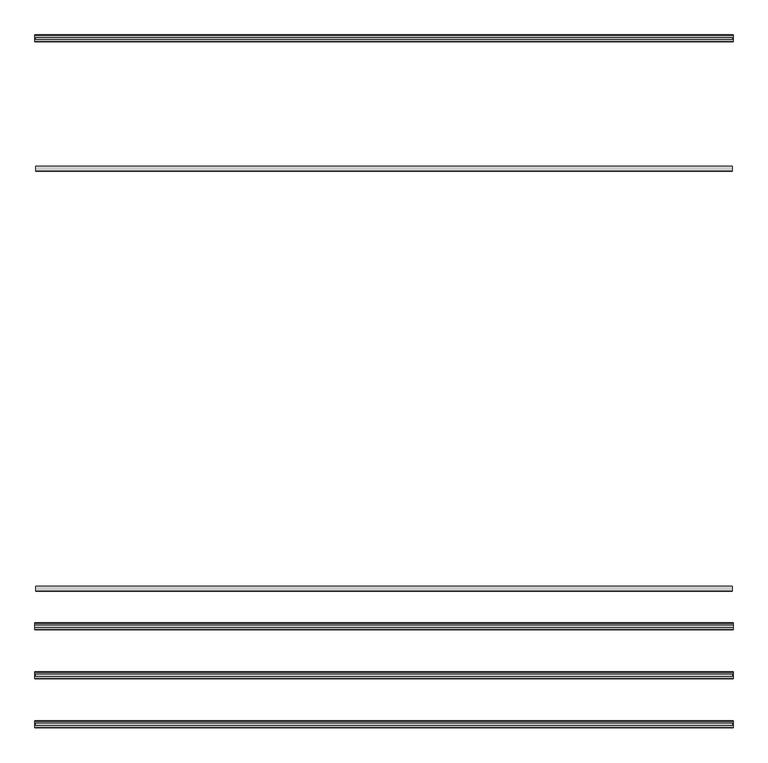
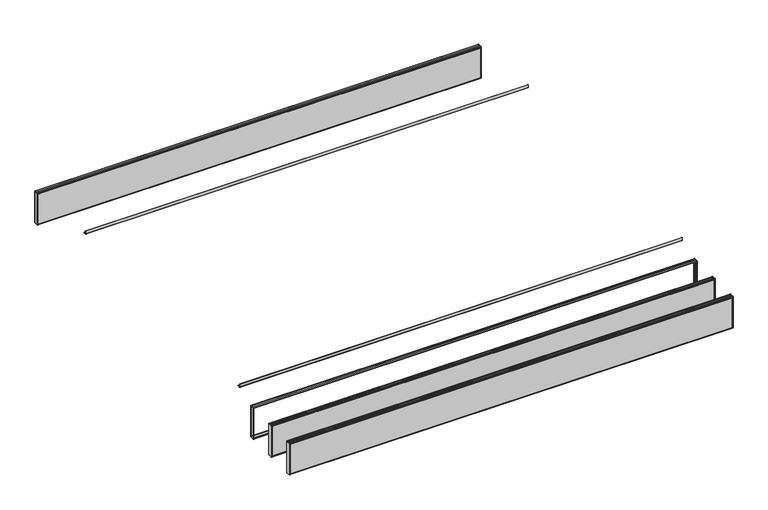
"""IFC4 building model written with IfcOpenShell, lengths in millimetres: proxy geometry, durlum_POLYLAM_KS : durlum_POLYLAM-KS/-S 40."""

import ifcopenshell
import ifcopenshell.guid

model = None  # the IFC model being written
_history = None  # IfcOwnerHistory: only IFC2X3 demands one
_inside = {}  # id of a spatial element -> (the spatial element, [elements in it])
_under = {}  # id of a project, library or spatial element -> (it, [spatial elements below it])
_declared = {}  # id of a project -> (the project, [libraries it declares])
_typed = {}  # id of a type object -> (the type object, [elements of that type])
_made_of = {}  # id of a material, layer set ... -> (it, [elements and type objects made of it])


def new_model(schema):
    """Start an empty IFC model of exactly this schema.

    Asked for "IFC4X3", IfcOpenShell would pick the latest addendum, in which some entities
    have other attributes; the version numbers below select the first issue.
    IFC2X3 requires an IfcOwnerHistory on every rooted entity: one is made here for all.
    """
    global model, _history
    if schema == "IFC4X3":
        model = ifcopenshell.file(schema_version=(4, 3, 0, 0))
    else:
        model = ifcopenshell.file(schema=schema)
    _inside.clear()
    _under.clear()
    _declared.clear()
    _typed.clear()
    _made_of.clear()
    _history = None
    if model.schema == "IFC2X3":
        org = make("IfcOrganization", Name="unknown")
        user = make(
            "IfcPersonAndOrganization",
            ThePerson=make("IfcPerson", FamilyName="unknown"),
            TheOrganization=org,
        )
        app = make(
            "IfcApplication",
            ApplicationDeveloper=org,
            Version="unknown",
            ApplicationFullName="unknown",
            ApplicationIdentifier="unknown",
        )
        _history = make(
            "IfcOwnerHistory",
            OwningUser=user,
            OwningApplication=app,
            ChangeAction="ADDED",
            CreationDate=0,
        )
    return model


def make(cls, **values):
    """One entity of the class cls with the attributes given. An attribute that is None is left unset."""
    return model.create_entity(
        cls, **{name: value for name, value in values.items() if value is not None}
    )


def rooted(cls, **values):
    """An entity with a GlobalId (a new one), such as an element, a storey or a relation."""
    return make(cls, GlobalId=ifcopenshell.guid.new(), OwnerHistory=_history, **values)


def si_unit(unit_type, name, prefix=None):
    """IfcSIUnit, for example si_unit("LENGTHUNIT", "METRE", prefix="MILLI")."""
    return make("IfcSIUnit", UnitType=unit_type, Prefix=prefix, Name=name)


def assignment(units):
    """IfcUnitAssignment: the units of a project."""
    return None if units is None else make("IfcUnitAssignment", Units=units)


def point(xyz):
    """IfcCartesianPoint."""
    return None if xyz is None else make("IfcCartesianPoint", Coordinates=xyz)


def direction(xyz):
    """IfcDirection."""
    return None if xyz is None else make("IfcDirection", DirectionRatios=xyz)


def frame(location, z_axis=None, x_axis=None):
    """IfcAxis2Placement3D, a coordinate frame: its origin and axes. An axis left out is left unset."""
    return make(
        "IfcAxis2Placement3D",
        Location=point(location),
        Axis=direction(z_axis),
        RefDirection=direction(x_axis),
    )


def frame_2d(location, x_axis=None):
    """IfcAxis2Placement2D, a coordinate frame in the plane: its origin and x axis."""
    return make(
        "IfcAxis2Placement2D", Location=point(location), RefDirection=direction(x_axis)
    )


def origin():
    """The frame at (0, 0, 0) with its axes left unset."""
    return frame((0.0, 0.0, 0.0))


def place(relative_to, where):
    """IfcLocalPlacement: puts the frame where relative to a parent placement (None: the world)."""
    return make(
        "IfcLocalPlacement", PlacementRelTo=relative_to, RelativePlacement=where
    )


def context(
    kind, dimensions, precision=None, world=None, true_north=None, identifier=None
):
    """IfcGeometricRepresentationContext, for example the 3D "Model" context."""
    return make(
        "IfcGeometricRepresentationContext",
        ContextIdentifier=identifier,
        ContextType=kind,
        CoordinateSpaceDimension=dimensions,
        Precision=precision,
        WorldCoordinateSystem=world,
        TrueNorth=true_north,
    )


def project(units=None, contexts=None):
    """IfcProject with its units and contexts."""
    return rooted(
        "IfcProject",
        Name="project",
        RepresentationContexts=contexts,
        UnitsInContext=assignment(units),
    )


def spatial(cls, under=None, at=None, **own):
    """A site, building, storey or space (cls), placed at a placement, below another one or the project."""
    s = rooted(cls, ObjectPlacement=at, **own)
    if under is not None:
        _under.setdefault(under.id(), (under, []))[1].append(s)
    return s


def polyline(points):
    """IfcPolyline through the points."""
    return make("IfcPolyline", Points=[point(p) for p in points])


def circle_curve(where, radius):
    """IfcCircle in the frame where."""
    return make("IfcCircle", Position=where, Radius=radius)


def trimmed(basis, trim1, trim2, sense, master):
    """IfcTrimmedCurve: the piece of a basis curve between two trims."""
    return make(
        "IfcTrimmedCurve",
        BasisCurve=basis,
        Trim1=trim1,
        Trim2=trim2,
        SenseAgreement=sense,
        MasterRepresentation=master,
    )


def segment(curve, same_sense, transition):
    """IfcCompositeCurveSegment."""
    return make(
        "IfcCompositeCurveSegment",
        Transition=transition,
        SameSense=same_sense,
        ParentCurve=curve,
    )


def composite_curve(segments, self_intersect=None):
    """IfcCompositeCurve: segments joined end to end."""
    return make("IfcCompositeCurve", Segments=segments, SelfIntersect=self_intersect)


def outline(outer, holes=None, kind="AREA"):
    """IfcArbitraryClosedProfileDef: a profile drawn as a closed curve; with holes, ...WithVoids."""
    if holes is None:
        return make("IfcArbitraryClosedProfileDef", ProfileType=kind, OuterCurve=outer)
    return make(
        "IfcArbitraryProfileDefWithVoids",
        ProfileType=kind,
        OuterCurve=outer,
        InnerCurves=holes,
    )


def extrude(swept, where, along, depth):
    """IfcExtrudedAreaSolid: the profile swept, set in the frame where, extruded along a direction by depth."""
    return make(
        "IfcExtrudedAreaSolid",
        SweptArea=swept,
        Position=where,
        ExtrudedDirection=direction(along),
        Depth=depth,
    )


def shape(context_of_items, identifier, shape_type, items):
    """IfcShapeRepresentation: the items that make up one representation, for example the "Body"."""
    return make(
        "IfcShapeRepresentation",
        ContextOfItems=context_of_items,
        RepresentationIdentifier=identifier,
        RepresentationType=shape_type,
        Items=items,
    )


def source(mapping_origin, context_of_items, identifier, shape_type, items):
    """IfcRepresentationMap: a shape defined once, which mapped items show again and again."""
    return make(
        "IfcRepresentationMap",
        MappingOrigin=mapping_origin,
        MappedRepresentation=shape(context_of_items, identifier, shape_type, items),
    )


def transform(
    local_origin,
    x_axis=None,
    y_axis=None,
    z_axis=None,
    scale=None,
    scale2=None,
    scale3=None,
    uniform=True,
):
    """IfcCartesianTransformationOperator3D, or its non-uniform kind. x_axis, y_axis, z_axis: its Axis1, 2, 3."""
    if uniform:
        return make(
            "IfcCartesianTransformationOperator3D",
            Axis1=direction(x_axis),
            Axis2=direction(y_axis),
            LocalOrigin=point(local_origin),
            Scale=scale,
            Axis3=direction(z_axis),
        )
    return make(
        "IfcCartesianTransformationOperator3DnonUniform",
        Axis1=direction(x_axis),
        Axis2=direction(y_axis),
        LocalOrigin=point(local_origin),
        Scale=scale,
        Axis3=direction(z_axis),
        Scale2=scale2,
        Scale3=scale3,
    )


def mapped(mapping_source, mapping_target):
    """IfcMappedItem: shows the shape of a source again, moved by a transform."""
    return make(
        "IfcMappedItem", MappingSource=mapping_source, MappingTarget=mapping_target
    )


def made_of(thing, what):
    """Note that an element or type object is made of a material, layer set ...; save() writes the relation."""
    if what is not None:
        _made_of.setdefault(what.id(), (what, []))[1].append(thing)
    return thing


def element(
    cls,
    number,
    at=None,
    inside=None,
    cuts=None,
    type_object=None,
    material=None,
    context=None,
    identifier="Body",
    shape_type=None,
    held_by="IfcProductDefinitionShape",
    body=None,
    shapes=None,
    **own,
):
    """One element of the class cls, such as IfcWall. Its Tag is "e" and its number.

    at: its placement. inside: the storey or other place that contains it. cuts: it is an
    opening in that element (IfcRelVoidsElement). A single representation is given by context,
    identifier, shape_type and body (its items); several are given by shapes. held_by: the class
    of the entity that holds the representations. save() writes the other relations.
    """
    e = rooted(cls, Tag="e%d" % number, ObjectPlacement=at, **own)
    if body is not None:
        shapes = [shape(context, identifier, shape_type, body)]
    if shapes is not None:
        e.Representation = make(held_by, Representations=shapes)
    if inside is not None:
        _inside.setdefault(inside.id(), (inside, []))[1].append(e)
    if cuts is not None:
        rooted(
            "IfcRelVoidsElement", RelatingBuildingElement=cuts, RelatedOpeningElement=e
        )
    if type_object is not None:
        _typed.setdefault(type_object.id(), (type_object, []))[1].append(e)
    return made_of(e, material)


def aggregate(whole, parts):
    """IfcRelAggregates: a whole, such as a stair, and the parts it consists of."""
    return rooted("IfcRelAggregates", RelatingObject=whole, RelatedObjects=parts)


def save(model, path):
    """Write the relations noted so far, then the file.

    IfcRelAggregates (storeys below a building ...), IfcRelContainedInSpatialStructure (elements
    in a storey), IfcRelDefinesByType, IfcRelAssociatesMaterial and IfcRelDeclares: one each for
    every whole, place, type object, material and project.
    """
    for whole, parts in _under.values():
        aggregate(whole, parts)
    for where, things in _inside.values():
        rooted(
            "IfcRelContainedInSpatialStructure",
            RelatedElements=things,
            RelatingStructure=where,
        )
    for kind, things in _typed.values():
        rooted("IfcRelDefinesByType", RelatedObjects=things, RelatingType=kind)
    for what, things in _made_of.values():
        rooted("IfcRelAssociatesMaterial", RelatedObjects=things, RelatingMaterial=what)
    for by, libraries in _declared.values():
        rooted("IfcRelDeclares", RelatingContext=by, RelatedDefinitions=libraries)
    model.write(path)


def plane_surface(at):
    """IfcPlane: the flat surface through the origin of the frame at, square to its z axis."""
    return make("IfcPlane", Position=at)


def cylinder_surface(at, radius):
    """IfcCylindricalSurface: all points at the distance radius from the z axis of the frame at."""
    return make("IfcCylindricalSurface", Position=at, Radius=radius)


def advanced_brep(points, edges, surfaces, faces):
    """IfcAdvancedBrep: a solid bounded by faces that lie on surfaces and meet in shared edges.

    An edge is (start, end): straight between two places in points (the first is 0);
    or (start, end, curve); or (start, end, curve, False) where it runs against its curve.
    A face is (place in surfaces, loops), or (place, loops, False) where it looks against
    its surface's normal. A loop lists edges by number (the first is 1), with a minus sign
    where the edge is run from its end to its start. The first loop is the outer one.
    """
    corners = [point(p) for p in points]
    vertices = [make("IfcVertexPoint", VertexGeometry=c) for c in corners]
    made = []
    for start, end, *more in edges:
        made.append(
            make(
                "IfcEdgeCurve",
                EdgeStart=vertices[start],
                EdgeEnd=vertices[end],
                EdgeGeometry=more[0] if more else make("IfcPolyline", Points=[corners[start], corners[end]]),
                SameSense=more[1] if len(more) > 1 else True,
            )
        )
    hull = []
    for where, loops, *sense in faces:
        bounds = []
        for j, loop in enumerate(loops):
            ring = [make("IfcOrientedEdge", EdgeElement=made[abs(k) - 1], Orientation=k > 0) for k in loop]
            bounds.append(
                make(
                    "IfcFaceOuterBound" if j == 0 else "IfcFaceBound",
                    Bound=make("IfcEdgeLoop", EdgeList=ring),
                    Orientation=True,
                )
            )
        hull.append(make("IfcAdvancedFace", Bounds=bounds, FaceSurface=surfaces[where], SameSense=sense[0] if sense else True))
    return make("IfcAdvancedBrep", Outer=make("IfcClosedShell", CfsFaces=hull))


def generic_models_58572ec1(model_context):
    return source(origin(), model_context, "Body", "SolidModel", [
        advanced_brep(
        [(1995.0, -1382.0, 1990.9), (1995.0, -1392.0, 1990.9), (1995.0, -1392.0, 1990.0604454), (1995.0, -1381.0, 1990.0604454), (1995.0, -1381.0, 1691.9), (1995.0, -1419.0, 1691.9), (1995.0, -1419.0, 1989.8155735), (1995.0, -1408.0, 1989.8155735), (1995.0, -1408.0, 1990.9), (1995.0, -1418.0, 1990.9), (1995.0, -1420.0, 1988.9), (1995.0, -1420.0, 1692.9), (1995.0, -1418.0, 1690.9), (1995.0, -1382.0, 1690.9), (1995.0, -1380.0, 1692.9), (1995.0, -1380.0, 1988.9), (-1995.0, -1382.0, 1990.9), (-1995.0, -1380.0, 1988.9), (-1995.0, -1380.0, 1692.9), (-1995.0, -1382.0, 1690.9), (-1995.0, -1418.0, 1690.9), (-1995.0, -1420.0, 1692.9), (-1995.0, -1420.0, 1988.9), (-1995.0, -1418.0, 1990.9), (-1995.0, -1408.0, 1990.9), (-1995.0, -1408.0, 1989.8155735), (-1995.0, -1419.0, 1989.8155735), (-1995.0, -1419.0, 1691.9), (-1995.0, -1381.0, 1691.9), (-1995.0, -1381.0, 1990.0604454), (-1995.0, -1392.0, 1990.0604454), (-1995.0, -1392.0, 1990.9), (-1986.5, -1381.0, 1982.4), (1986.5, -1381.0, 1982.4), (1986.5, -1381.0, 1699.4), (-1986.5, -1381.0, 1699.4), (1986.5, -1419.0, 1982.4), (-1986.5, -1419.0, 1982.4), (-1986.5, -1419.0, 1699.4), (1986.5, -1419.0, 1699.4), (-1986.5, -1420.0, 1982.4), (1986.5, -1420.0, 1982.4), (1986.5, -1420.0, 1699.4), (-1986.5, -1420.0, 1699.4), (1986.5, -1380.0, 1982.4), (-1986.5, -1380.0, 1982.4), (-1986.5, -1380.0, 1699.4), (1986.5, -1380.0, 1699.4)],
        [
            (0, 1),
            (1, 2),
            (2, 3),
            (3, 4),
            (4, 5),
            (5, 6),
            (6, 7),
            (7, 8),
            (8, 9),
            (9, 10, circle_curve(frame((1995.0, -1418.0, 1988.9), z_axis=(1.0, 0.0, 0.0), x_axis=(0.0, 1.0, 0.0)), 2.0)),
            (10, 11),
            (11, 12, circle_curve(frame((1995.0, -1418.0, 1692.9), z_axis=(1.0, 0.0, 0.0), x_axis=(0.0, 1.0, 0.0)), 2.0)),
            (12, 13),
            (13, 14, circle_curve(frame((1995.0, -1382.0, 1692.9), z_axis=(1.0, 0.0, 0.0), x_axis=(0.0, 1.0, 0.0)), 2.0)),
            (14, 15),
            (15, 0, circle_curve(frame((1995.0, -1382.0, 1988.9), z_axis=(1.0, 0.0, 0.0), x_axis=(0.0, 1.0, 0.0)), 2.0)),
            (16, 17, circle_curve(frame((-1995.0, -1382.0, 1988.9), z_axis=(-1.0, 0.0, 0.0), x_axis=(0.0, 1.0, 0.0)), 2.0)),
            (17, 18),
            (18, 19, circle_curve(frame((-1995.0, -1382.0, 1692.9), z_axis=(-1.0, 0.0, 0.0), x_axis=(0.0, 1.0, 0.0)), 2.0)),
            (19, 20),
            (20, 21, circle_curve(frame((-1995.0, -1418.0, 1692.9), z_axis=(-1.0, 0.0, 0.0), x_axis=(0.0, 1.0, 0.0)), 2.0)),
            (21, 22),
            (22, 23, circle_curve(frame((-1995.0, -1418.0, 1988.9), z_axis=(-1.0, 0.0, 0.0), x_axis=(0.0, 1.0, 0.0)), 2.0)),
            (23, 24),
            (24, 25),
            (25, 26),
            (26, 27),
            (27, 28),
            (28, 29),
            (29, 30),
            (30, 31),
            (31, 16),
            (0, 16),
            (31, 1),
            (30, 2),
            (29, 3),
            (28, 4),
            (32, 33),
            (33, 34),
            (34, 35),
            (35, 32),
            (27, 5),
            (26, 6),
            (36, 37),
            (37, 38),
            (38, 39),
            (39, 36),
            (25, 7),
            (24, 8),
            (23, 9),
            (10, 22),
            (21, 11),
            (40, 41),
            (41, 42),
            (42, 43),
            (43, 40),
            (12, 20),
            (19, 13),
            (14, 18),
            (17, 15),
            (44, 45),
            (45, 46),
            (46, 47),
            (47, 44),
            (44, 33),
            (32, 45),
            (36, 41),
            (40, 37),
            (35, 46),
            (43, 38),
            (34, 47),
            (42, 39),
        ],
        [
            plane_surface(frame((1995.0, -1392.0, 1990.9), z_axis=(1.0, 0.0, 0.0), x_axis=(0.0, -1.0, 0.0))),
            plane_surface(frame((-1995.0, -1392.0, 1990.9), z_axis=(-1.0, 0.0, 0.0), x_axis=(0.0, 1.0, 0.0))),
            plane_surface(frame((1995.0, -1382.0, 1990.9), z_axis=(0.0, 0.0, 1.0), x_axis=(-1.0, 0.0, 0.0))),
            plane_surface(frame((1995.0, -1392.0, 1990.9), z_axis=(0.0, -1.0, 0.0), x_axis=(-1.0, 0.0, 0.0))),
            plane_surface(frame((1995.0, -1392.0, 1990.0604454), z_axis=(0.0, 0.0, -1.0), x_axis=(-1.0, 0.0, 0.0))),
            plane_surface(frame((1995.0, -1381.0, 1990.0604454), z_axis=(0.0, -1.0, 0.0), x_axis=(-1.0, 0.0, 0.0))),
            plane_surface(frame((1995.0, -1381.0, 1691.9), z_axis=(0.0, 0.0, 1.0), x_axis=(-1.0, 0.0, 0.0))),
            plane_surface(frame((1995.0, -1419.0, 1691.9), z_axis=(0.0, 1.0, 0.0), x_axis=(-1.0, 0.0, 0.0))),
            plane_surface(frame((1995.0, -1419.0, 1989.8155735), z_axis=(0.0, 0.0, -1.0), x_axis=(-1.0, 0.0, 0.0))),
            plane_surface(frame((1995.0, -1408.0, 1989.8155735), z_axis=(0.0, 1.0, 0.0), x_axis=(-1.0, 0.0, 0.0))),
            plane_surface(frame((1995.0, -1408.0, 1990.9), z_axis=(0.0, 0.0, 1.0), x_axis=(-1.0, 0.0, 0.0))),
            plane_surface(frame((1995.0, -1420.0, 1988.9), z_axis=(0.0, -1.0, 0.0), x_axis=(-1.0, 0.0, 0.0))),
            plane_surface(frame((1995.0, -1418.0, 1690.9), z_axis=(0.0, 0.0, -1.0), x_axis=(-1.0, 0.0, 0.0))),
            plane_surface(frame((1995.0, -1380.0, 1692.9), z_axis=(0.0, 1.0, 0.0), x_axis=(-1.0, 0.0, 0.0))),
            cylinder_surface(frame((-1995.0, -1418.0, 1988.9), z_axis=(1.0, 0.0, 0.0), x_axis=(0.0, 1.0, 0.0)), 2.0),
            cylinder_surface(frame((-1995.0, -1418.0, 1692.9), z_axis=(1.0, 0.0, 0.0), x_axis=(0.0, 1.0, 0.0)), 2.0),
            cylinder_surface(frame((-1995.0, -1382.0, 1692.9), z_axis=(1.0, 0.0, 0.0), x_axis=(0.0, 1.0, 0.0)), 2.0),
            cylinder_surface(frame((-1995.0, -1382.0, 1988.9), z_axis=(1.0, 0.0, 0.0), x_axis=(0.0, 1.0, 0.0)), 2.0),
            plane_surface(frame((1986.5, -1420.0, 1982.4), z_axis=(0.0, 0.0, -1.0), x_axis=(0.0, 1.0, 0.0))),
            plane_surface(frame((-1986.5, -1420.0, 1982.4), z_axis=(1.0, 0.0, 0.0), x_axis=(0.0, 1.0, 0.0))),
            plane_surface(frame((-1986.5, -1420.0, 1699.4), z_axis=(0.0, 0.0, 1.0), x_axis=(0.0, 1.0, 0.0))),
            plane_surface(frame((1986.5, -1420.0, 1699.4), z_axis=(-1.0, 0.0, 0.0), x_axis=(0.0, 1.0, 0.0))),
        ],
        [
            (0, [[1, 2, 3, 4, 5, 6, 7, 8, 9, 10, 11, 12, 13, 14, 15, 16]]),
            (1, [[17, 18, 19, 20, 21, 22, 23, 24, 25, 26, 27, 28, 29, 30, 31, 32]]),
            (2, [[-1, 33, -32, 34]]),
            (3, [[-2, -34, -31, 35]]),
            (4, [[-3, -35, -30, 36]]),
            (5, [[-4, -36, -29, 37], [38, 39, 40, 41]]),
            (6, [[-5, -37, -28, 42]]),
            (7, [[-6, -42, -27, 43], [44, 45, 46, 47]]),
            (8, [[-7, -43, -26, 48]]),
            (9, [[-8, -48, -25, 49]]),
            (10, [[-9, -49, -24, 50]]),
            (11, [[-11, 51, -22, 52], [53, 54, 55, 56]]),
            (12, [[-13, 57, -20, 58]]),
            (13, [[-15, 59, -18, 60], [61, 62, 63, 64]]),
            (14, [[-10, -50, -23, -51]]),
            (15, [[-12, -52, -21, -57]]),
            (16, [[-14, -58, -19, -59]]),
            (17, [[-16, -60, -17, -33]]),
            (18, [[65, -38, 66, -61]]),
            (18, [[67, -53, 68, -44]]),
            (19, [[-66, -41, 69, -62]]),
            (19, [[-68, -56, 70, -45]]),
            (20, [[-69, -40, 71, -63]]),
            (20, [[-70, -55, 72, -46]]),
            (21, [[-65, -64, -71, -39]]),
            (21, [[-67, -47, -72, -54]]),
        ],
    ),
        extrude(outline(polyline([(1986.5, -1661.0), (-1986.5, -1661.0), (-1986.5, -1660.0), (1986.5, -1660.0), (1986.5, -1661.0)])), frame((0.0, 0.0, 1699.4), z_axis=(0.0, 0.0, 1.0), x_axis=(1.0, 0.0, 0.0)), (0.0, 0.0, 1.0), 283.0),
        extrude(outline(polyline([(1986.5, -1700.0), (-1986.5, -1700.0), (-1986.5, -1699.0), (1986.5, -1699.0), (1986.5, -1700.0)])), frame((0.0, 0.0, 1699.4), z_axis=(0.0, 0.0, 1.0), x_axis=(1.0, 0.0, 0.0)), (0.0, 0.0, 1.0), 283.0),
        extrude(outline(polyline([(1993.0, -1661.0), (1995.0, -1661.0), (1995.0, -1699.0), (1993.0, -1699.0), (1993.0, -1661.0)])), frame((0.0, 0.0, 1691.9), z_axis=(0.0, 0.0, 1.0), x_axis=(1.0, 0.0, 0.0)), (0.0, 0.0, 1.0), 298.1604454),
        extrude(outline(polyline([(-1995.0, -1661.0), (-1993.0, -1661.0), (-1993.0, -1699.0), (-1995.0, -1699.0), (-1995.0, -1661.0)])), frame((0.0, 0.0, 1691.9), z_axis=(0.0, 0.0, 1.0), x_axis=(1.0, 0.0, 0.0)), (0.0, 0.0, 1.0), 298.1604454),
        advanced_brep(
        [(1995.0, -1662.0, 1990.9), (1995.0, -1672.0, 1990.9), (1995.0, -1672.0, 1990.0604454), (1995.0, -1661.0, 1990.0604454), (1995.0, -1661.0, 1691.9), (1995.0, -1699.0, 1691.9), (1995.0, -1699.0, 1989.8155735), (1995.0, -1688.0, 1989.8155735), (1995.0, -1688.0, 1990.9), (1995.0, -1698.0, 1990.9), (1995.0, -1700.0, 1988.9), (1995.0, -1700.0, 1692.9), (1995.0, -1698.0, 1690.9), (1995.0, -1662.0, 1690.9), (1995.0, -1660.0, 1692.9), (1995.0, -1660.0, 1988.9), (-1995.0, -1662.0, 1990.9), (-1995.0, -1660.0, 1988.9), (-1995.0, -1660.0, 1692.9), (-1995.0, -1662.0, 1690.9), (-1995.0, -1698.0, 1690.9), (-1995.0, -1700.0, 1692.9), (-1995.0, -1700.0, 1988.9), (-1995.0, -1698.0, 1990.9), (-1995.0, -1688.0, 1990.9), (-1995.0, -1688.0, 1989.8155735), (-1995.0, -1699.0, 1989.8155735), (-1995.0, -1699.0, 1691.9), (-1995.0, -1661.0, 1691.9), (-1995.0, -1661.0, 1990.0604454), (-1995.0, -1672.0, 1990.0604454), (-1995.0, -1672.0, 1990.9), (-1986.5, -1661.0, 1982.4), (1986.5, -1661.0, 1982.4), (1986.5, -1661.0, 1699.4), (-1986.5, -1661.0, 1699.4), (1986.5, -1699.0, 1982.4), (-1986.5, -1699.0, 1982.4), (-1986.5, -1699.0, 1699.4), (1986.5, -1699.0, 1699.4), (-1986.5, -1700.0, 1982.4), (1986.5, -1700.0, 1982.4), (1986.5, -1700.0, 1699.4), (-1986.5, -1700.0, 1699.4), (1986.5, -1660.0, 1982.4), (-1986.5, -1660.0, 1982.4), (-1986.5, -1660.0, 1699.4), (1986.5, -1660.0, 1699.4)],
        [
            (0, 1),
            (1, 2),
            (2, 3),
            (3, 4),
            (4, 5),
            (5, 6),
            (6, 7),
            (7, 8),
            (8, 9),
            (9, 10, circle_curve(frame((1995.0, -1698.0, 1988.9), z_axis=(1.0, 0.0, 0.0), x_axis=(0.0, 1.0, 0.0)), 2.0)),
            (10, 11),
            (11, 12, circle_curve(frame((1995.0, -1698.0, 1692.9), z_axis=(1.0, 0.0, 0.0), x_axis=(0.0, 1.0, 0.0)), 2.0)),
            (12, 13),
            (13, 14, circle_curve(frame((1995.0, -1662.0, 1692.9), z_axis=(1.0, 0.0, 0.0), x_axis=(0.0, 1.0, 0.0)), 2.0)),
            (14, 15),
            (15, 0, circle_curve(frame((1995.0, -1662.0, 1988.9), z_axis=(1.0, 0.0, 0.0), x_axis=(0.0, 1.0, 0.0)), 2.0)),
            (16, 17, circle_curve(frame((-1995.0, -1662.0, 1988.9), z_axis=(-1.0, 0.0, 0.0), x_axis=(0.0, 1.0, 0.0)), 2.0)),
            (17, 18),
            (18, 19, circle_curve(frame((-1995.0, -1662.0, 1692.9), z_axis=(-1.0, 0.0, 0.0), x_axis=(0.0, 1.0, 0.0)), 2.0)),
            (19, 20),
            (20, 21, circle_curve(frame((-1995.0, -1698.0, 1692.9), z_axis=(-1.0, 0.0, 0.0), x_axis=(0.0, 1.0, 0.0)), 2.0)),
            (21, 22),
            (22, 23, circle_curve(frame((-1995.0, -1698.0, 1988.9), z_axis=(-1.0, 0.0, 0.0), x_axis=(0.0, 1.0, 0.0)), 2.0)),
            (23, 24),
            (24, 25),
            (25, 26),
            (26, 27),
            (27, 28),
            (28, 29),
            (29, 30),
            (30, 31),
            (31, 16),
            (0, 16),
            (31, 1),
            (30, 2),
            (29, 3),
            (28, 4),
            (32, 33),
            (33, 34),
            (34, 35),
            (35, 32),
            (27, 5),
            (26, 6),
            (36, 37),
            (37, 38),
            (38, 39),
            (39, 36),
            (25, 7),
            (24, 8),
            (23, 9),
            (10, 22),
            (21, 11),
            (40, 41),
            (41, 42),
            (42, 43),
            (43, 40),
            (12, 20),
            (19, 13),
            (14, 18),
            (17, 15),
            (44, 45),
            (45, 46),
            (46, 47),
            (47, 44),
            (44, 33),
            (32, 45),
            (36, 41),
            (40, 37),
            (35, 46),
            (43, 38),
            (34, 47),
            (42, 39),
        ],
        [
            plane_surface(frame((1995.0, -1672.0, 1990.9), z_axis=(1.0, 0.0, 0.0), x_axis=(0.0, -1.0, 0.0))),
            plane_surface(frame((-1995.0, -1672.0, 1990.9), z_axis=(-1.0, 0.0, 0.0), x_axis=(0.0, 1.0, 0.0))),
            plane_surface(frame((1995.0, -1662.0, 1990.9), z_axis=(0.0, 0.0, 1.0), x_axis=(-1.0, 0.0, 0.0))),
            plane_surface(frame((1995.0, -1672.0, 1990.9), z_axis=(0.0, -1.0, 0.0), x_axis=(-1.0, 0.0, 0.0))),
            plane_surface(frame((1995.0, -1672.0, 1990.0604454), z_axis=(0.0, 0.0, -1.0), x_axis=(-1.0, 0.0, 0.0))),
            plane_surface(frame((1995.0, -1661.0, 1990.0604454), z_axis=(0.0, -1.0, 0.0), x_axis=(-1.0, 0.0, 0.0))),
            plane_surface(frame((1995.0, -1661.0, 1691.9), z_axis=(0.0, 0.0, 1.0), x_axis=(-1.0, 0.0, 0.0))),
            plane_surface(frame((1995.0, -1699.0, 1691.9), z_axis=(0.0, 1.0, 0.0), x_axis=(-1.0, 0.0, 0.0))),
            plane_surface(frame((1995.0, -1699.0, 1989.8155735), z_axis=(0.0, 0.0, -1.0), x_axis=(-1.0, 0.0, 0.0))),
            plane_surface(frame((1995.0, -1688.0, 1989.8155735), z_axis=(0.0, 1.0, 0.0), x_axis=(-1.0, 0.0, 0.0))),
            plane_surface(frame((1995.0, -1688.0, 1990.9), z_axis=(0.0, 0.0, 1.0), x_axis=(-1.0, 0.0, 0.0))),
            plane_surface(frame((1995.0, -1700.0, 1988.9), z_axis=(0.0, -1.0, 0.0), x_axis=(-1.0, 0.0, 0.0))),
            plane_surface(frame((1995.0, -1698.0, 1690.9), z_axis=(0.0, 0.0, -1.0), x_axis=(-1.0, 0.0, 0.0))),
            plane_surface(frame((1995.0, -1660.0, 1692.9), z_axis=(0.0, 1.0, 0.0), x_axis=(-1.0, 0.0, 0.0))),
            cylinder_surface(frame((-1995.0, -1698.0, 1988.9), z_axis=(1.0, 0.0, 0.0), x_axis=(0.0, 1.0, 0.0)), 2.0),
            cylinder_surface(frame((-1995.0, -1698.0, 1692.9), z_axis=(1.0, 0.0, 0.0), x_axis=(0.0, 1.0, 0.0)), 2.0),
            cylinder_surface(frame((-1995.0, -1662.0, 1692.9), z_axis=(1.0, 0.0, 0.0), x_axis=(0.0, 1.0, 0.0)), 2.0),
            cylinder_surface(frame((-1995.0, -1662.0, 1988.9), z_axis=(1.0, 0.0, 0.0), x_axis=(0.0, 1.0, 0.0)), 2.0),
            plane_surface(frame((1986.5, -1700.0, 1982.4), z_axis=(0.0, 0.0, -1.0), x_axis=(0.0, 1.0, 0.0))),
            plane_surface(frame((-1986.5, -1700.0, 1982.4), z_axis=(1.0, 0.0, 0.0), x_axis=(0.0, 1.0, 0.0))),
            plane_surface(frame((-1986.5, -1700.0, 1699.4), z_axis=(0.0, 0.0, 1.0), x_axis=(0.0, 1.0, 0.0))),
            plane_surface(frame((1986.5, -1700.0, 1699.4), z_axis=(-1.0, 0.0, 0.0), x_axis=(0.0, 1.0, 0.0))),
        ],
        [
            (0, [[1, 2, 3, 4, 5, 6, 7, 8, 9, 10, 11, 12, 13, 14, 15, 16]]),
            (1, [[17, 18, 19, 20, 21, 22, 23, 24, 25, 26, 27, 28, 29, 30, 31, 32]]),
            (2, [[-1, 33, -32, 34]]),
            (3, [[-2, -34, -31, 35]]),
            (4, [[-3, -35, -30, 36]]),
            (5, [[-4, -36, -29, 37], [38, 39, 40, 41]]),
            (6, [[-5, -37, -28, 42]]),
            (7, [[-6, -42, -27, 43], [44, 45, 46, 47]]),
            (8, [[-7, -43, -26, 48]]),
            (9, [[-8, -48, -25, 49]]),
            (10, [[-9, -49, -24, 50]]),
            (11, [[-11, 51, -22, 52], [53, 54, 55, 56]]),
            (12, [[-13, 57, -20, 58]]),
            (13, [[-15, 59, -18, 60], [61, 62, 63, 64]]),
            (14, [[-10, -50, -23, -51]]),
            (15, [[-12, -52, -21, -57]]),
            (16, [[-14, -58, -19, -59]]),
            (17, [[-16, -60, -17, -33]]),
            (18, [[65, -38, 66, -61]]),
            (18, [[67, -53, 68, -44]]),
            (19, [[-66, -41, 69, -62]]),
            (19, [[-68, -56, 70, -45]]),
            (20, [[-69, -40, 71, -63]]),
            (20, [[-70, -55, 72, -46]]),
            (21, [[-65, -64, -71, -39]]),
            (21, [[-67, -47, -72, -54]]),
        ],
    ),
        extrude(outline(polyline([(1986.5, 1979.0), (-1986.5, 1979.0), (-1986.5, 1980.0), (1986.5, 1980.0), (1986.5, 1979.0)])), frame((0.0, 0.0, 1699.4), z_axis=(0.0, 0.0, 1.0), x_axis=(1.0, 0.0, 0.0)), (0.0, 0.0, 1.0), 283.0),
        extrude(outline(polyline([(1986.5, 1940.0), (-1986.5, 1940.0), (-1986.5, 1941.0), (1986.5, 1941.0), (1986.5, 1940.0)])), frame((0.0, 0.0, 1699.4), z_axis=(0.0, 0.0, 1.0), x_axis=(1.0, 0.0, 0.0)), (0.0, 0.0, 1.0), 283.0),
        extrude(outline(polyline([(1993.0, 1979.0), (1995.0, 1979.0), (1995.0, 1941.0), (1993.0, 1941.0), (1993.0, 1979.0)])), frame((0.0, 0.0, 1691.9), z_axis=(0.0, 0.0, 1.0), x_axis=(1.0, 0.0, 0.0)), (0.0, 0.0, 1.0), 298.1604454),
        extrude(outline(polyline([(-1995.0, 1979.0), (-1993.0, 1979.0), (-1993.0, 1941.0), (-1995.0, 1941.0), (-1995.0, 1979.0)])), frame((0.0, 0.0, 1691.9), z_axis=(0.0, 0.0, 1.0), x_axis=(1.0, 0.0, 0.0)), (0.0, 0.0, 1.0), 298.1604454),
        advanced_brep(
        [(1995.0, 1978.0, 1990.9), (1995.0, 1968.0, 1990.9), (1995.0, 1968.0, 1990.0604454), (1995.0, 1979.0, 1990.0604454), (1995.0, 1979.0, 1691.9), (1995.0, 1941.0, 1691.9), (1995.0, 1941.0, 1989.8155735), (1995.0, 1952.0, 1989.8155735), (1995.0, 1952.0, 1990.9), (1995.0, 1942.0, 1990.9), (1995.0, 1940.0, 1988.9), (1995.0, 1940.0, 1692.9), (1995.0, 1942.0, 1690.9), (1995.0, 1978.0, 1690.9), (1995.0, 1980.0, 1692.9), (1995.0, 1980.0, 1988.9), (-1995.0, 1978.0, 1990.9), (-1995.0, 1980.0, 1988.9), (-1995.0, 1980.0, 1692.9), (-1995.0, 1978.0, 1690.9), (-1995.0, 1942.0, 1690.9), (-1995.0, 1940.0, 1692.9), (-1995.0, 1940.0, 1988.9), (-1995.0, 1942.0, 1990.9), (-1995.0, 1952.0, 1990.9), (-1995.0, 1952.0, 1989.8155735), (-1995.0, 1941.0, 1989.8155735), (-1995.0, 1941.0, 1691.9), (-1995.0, 1979.0, 1691.9), (-1995.0, 1979.0, 1990.0604454), (-1995.0, 1968.0, 1990.0604454), (-1995.0, 1968.0, 1990.9), (-1986.5, 1979.0, 1982.4), (1986.5, 1979.0, 1982.4), (1986.5, 1979.0, 1699.4), (-1986.5, 1979.0, 1699.4), (1986.5, 1941.0, 1982.4), (-1986.5, 1941.0, 1982.4), (-1986.5, 1941.0, 1699.4), (1986.5, 1941.0, 1699.4), (-1986.5, 1940.0, 1982.4), (1986.5, 1940.0, 1982.4), (1986.5, 1940.0, 1699.4), (-1986.5, 1940.0, 1699.4), (1986.5, 1980.0, 1982.4), (-1986.5, 1980.0, 1982.4), (-1986.5, 1980.0, 1699.4), (1986.5, 1980.0, 1699.4)],
        [
            (0, 1),
            (1, 2),
            (2, 3),
            (3, 4),
            (4, 5),
            (5, 6),
            (6, 7),
            (7, 8),
            (8, 9),
            (9, 10, circle_curve(frame((1995.0, 1942.0, 1988.9), z_axis=(1.0, 0.0, 0.0), x_axis=(0.0, 1.0, 0.0)), 2.0)),
            (10, 11),
            (11, 12, circle_curve(frame((1995.0, 1942.0, 1692.9), z_axis=(1.0, 0.0, 0.0), x_axis=(0.0, 1.0, 0.0)), 2.0)),
            (12, 13),
            (13, 14, circle_curve(frame((1995.0, 1978.0, 1692.9), z_axis=(1.0, 0.0, 0.0), x_axis=(0.0, 1.0, 0.0)), 2.0)),
            (14, 15),
            (15, 0, circle_curve(frame((1995.0, 1978.0, 1988.9), z_axis=(1.0, 0.0, 0.0), x_axis=(0.0, 1.0, 0.0)), 2.0)),
            (16, 17, circle_curve(frame((-1995.0, 1978.0, 1988.9), z_axis=(-1.0, 0.0, 0.0), x_axis=(0.0, 1.0, 0.0)), 2.0)),
            (17, 18),
            (18, 19, circle_curve(frame((-1995.0, 1978.0, 1692.9), z_axis=(-1.0, 0.0, 0.0), x_axis=(0.0, 1.0, 0.0)), 2.0)),
            (19, 20),
            (20, 21, circle_curve(frame((-1995.0, 1942.0, 1692.9), z_axis=(-1.0, 0.0, 0.0), x_axis=(0.0, 1.0, 0.0)), 2.0)),
            (21, 22),
            (22, 23, circle_curve(frame((-1995.0, 1942.0, 1988.9), z_axis=(-1.0, 0.0, 0.0), x_axis=(0.0, 1.0, 0.0)), 2.0)),
            (23, 24),
            (24, 25),
            (25, 26),
            (26, 27),
            (27, 28),
            (28, 29),
            (29, 30),
            (30, 31),
            (31, 16),
            (0, 16),
            (31, 1),
            (30, 2),
            (29, 3),
            (28, 4),
            (32, 33),
            (33, 34),
            (34, 35),
            (35, 32),
            (27, 5),
            (26, 6),
            (36, 37),
            (37, 38),
            (38, 39),
            (39, 36),
            (25, 7),
            (24, 8),
            (23, 9),
            (10, 22),
            (21, 11),
            (40, 41),
            (41, 42),
            (42, 43),
            (43, 40),
            (12, 20),
            (19, 13),
            (14, 18),
            (17, 15),
            (44, 45),
            (45, 46),
            (46, 47),
            (47, 44),
            (44, 33),
            (32, 45),
            (36, 41),
            (40, 37),
            (35, 46),
            (43, 38),
            (34, 47),
            (42, 39),
        ],
        [
            plane_surface(frame((1995.0, 1968.0, 1990.9), z_axis=(1.0, 0.0, 0.0), x_axis=(0.0, -1.0, 0.0))),
            plane_surface(frame((-1995.0, 1968.0, 1990.9), z_axis=(-1.0, 0.0, 0.0), x_axis=(0.0, 1.0, 0.0))),
            plane_surface(frame((1995.0, 1978.0, 1990.9), z_axis=(0.0, 0.0, 1.0), x_axis=(-1.0, 0.0, 0.0))),
            plane_surface(frame((1995.0, 1968.0, 1990.9), z_axis=(0.0, -1.0, 0.0), x_axis=(-1.0, 0.0, 0.0))),
            plane_surface(frame((1995.0, 1968.0, 1990.0604454), z_axis=(0.0, 0.0, -1.0), x_axis=(-1.0, 0.0, 0.0))),
            plane_surface(frame((1995.0, 1979.0, 1990.0604454), z_axis=(0.0, -1.0, 0.0), x_axis=(-1.0, 0.0, 0.0))),
            plane_surface(frame((1995.0, 1979.0, 1691.9), z_axis=(0.0, 0.0, 1.0), x_axis=(-1.0, 0.0, 0.0))),
            plane_surface(frame((1995.0, 1941.0, 1691.9), z_axis=(0.0, 1.0, 0.0), x_axis=(-1.0, 0.0, 0.0))),
            plane_surface(frame((1995.0, 1941.0, 1989.8155735), z_axis=(0.0, 0.0, -1.0), x_axis=(-1.0, 0.0, 0.0))),
            plane_surface(frame((1995.0, 1952.0, 1989.8155735), z_axis=(0.0, 1.0, 0.0), x_axis=(-1.0, 0.0, 0.0))),
            plane_surface(frame((1995.0, 1952.0, 1990.9), z_axis=(0.0, 0.0, 1.0), x_axis=(-1.0, 0.0, 0.0))),
            plane_surface(frame((1995.0, 1940.0, 1988.9), z_axis=(0.0, -1.0, 0.0), x_axis=(-1.0, 0.0, 0.0))),
            plane_surface(frame((1995.0, 1942.0, 1690.9), z_axis=(0.0, 0.0, -1.0), x_axis=(-1.0, 0.0, 0.0))),
            plane_surface(frame((1995.0, 1980.0, 1692.9), z_axis=(0.0, 1.0, 0.0), x_axis=(-1.0, 0.0, 0.0))),
            cylinder_surface(frame((-1995.0, 1942.0, 1988.9), z_axis=(1.0, 0.0, 0.0), x_axis=(0.0, 1.0, 0.0)), 2.0),
            cylinder_surface(frame((-1995.0, 1942.0, 1692.9), z_axis=(1.0, 0.0, 0.0), x_axis=(0.0, 1.0, 0.0)), 2.0),
            cylinder_surface(frame((-1995.0, 1978.0, 1692.9), z_axis=(1.0, 0.0, 0.0), x_axis=(0.0, 1.0, 0.0)), 2.0),
            cylinder_surface(frame((-1995.0, 1978.0, 1988.9), z_axis=(1.0, 0.0, 0.0), x_axis=(0.0, 1.0, 0.0)), 2.0),
            plane_surface(frame((1986.5, 1940.0, 1982.4), z_axis=(0.0, 0.0, -1.0), x_axis=(0.0, 1.0, 0.0))),
            plane_surface(frame((-1986.5, 1940.0, 1982.4), z_axis=(1.0, 0.0, 0.0), x_axis=(0.0, 1.0, 0.0))),
            plane_surface(frame((-1986.5, 1940.0, 1699.4), z_axis=(0.0, 0.0, 1.0), x_axis=(0.0, 1.0, 0.0))),
            plane_surface(frame((1986.5, 1940.0, 1699.4), z_axis=(-1.0, 0.0, 0.0), x_axis=(0.0, 1.0, 0.0))),
        ],
        [
            (0, [[1, 2, 3, 4, 5, 6, 7, 8, 9, 10, 11, 12, 13, 14, 15, 16]]),
            (1, [[17, 18, 19, 20, 21, 22, 23, 24, 25, 26, 27, 28, 29, 30, 31, 32]]),
            (2, [[-1, 33, -32, 34]]),
            (3, [[-2, -34, -31, 35]]),
            (4, [[-3, -35, -30, 36]]),
            (5, [[-4, -36, -29, 37], [38, 39, 40, 41]]),
            (6, [[-5, -37, -28, 42]]),
            (7, [[-6, -42, -27, 43], [44, 45, 46, 47]]),
            (8, [[-7, -43, -26, 48]]),
            (9, [[-8, -48, -25, 49]]),
            (10, [[-9, -49, -24, 50]]),
            (11, [[-11, 51, -22, 52], [53, 54, 55, 56]]),
            (12, [[-13, 57, -20, 58]]),
            (13, [[-15, 59, -18, 60], [61, 62, 63, 64]]),
            (14, [[-10, -50, -23, -51]]),
            (15, [[-12, -52, -21, -57]]),
            (16, [[-14, -58, -19, -59]]),
            (17, [[-16, -60, -17, -33]]),
            (18, [[65, -38, 66, -61]]),
            (18, [[67, -53, 68, -44]]),
            (19, [[-66, -41, 69, -62]]),
            (19, [[-68, -56, 70, -45]]),
            (20, [[-69, -40, 71, -63]]),
            (20, [[-70, -55, 72, -46]]),
            (21, [[-65, -64, -71, -39]]),
            (21, [[-67, -47, -72, -54]]),
        ],
    ),
        extrude(outline(polyline([(1986.5, -1941.0), (-1986.5, -1941.0), (-1986.5, -1940.0), (1986.5, -1940.0), (1986.5, -1941.0)])), frame((0.0, 0.0, 1699.4), z_axis=(0.0, 0.0, 1.0), x_axis=(1.0, 0.0, 0.0)), (0.0, 0.0, 1.0), 283.0),
        extrude(outline(polyline([(1986.5, -1980.0), (-1986.5, -1980.0), (-1986.5, -1979.0), (1986.5, -1979.0), (1986.5, -1980.0)])), frame((0.0, 0.0, 1699.4), z_axis=(0.0, 0.0, 1.0), x_axis=(1.0, 0.0, 0.0)), (0.0, 0.0, 1.0), 283.0),
        extrude(outline(polyline([(1993.0, -1941.0), (1995.0, -1941.0), (1995.0, -1979.0), (1993.0, -1979.0), (1993.0, -1941.0)])), frame((0.0, 0.0, 1691.9), z_axis=(0.0, 0.0, 1.0), x_axis=(1.0, 0.0, 0.0)), (0.0, 0.0, 1.0), 298.1604454),
        extrude(outline(polyline([(-1995.0, -1941.0), (-1993.0, -1941.0), (-1993.0, -1979.0), (-1995.0, -1979.0), (-1995.0, -1941.0)])), frame((0.0, 0.0, 1691.9), z_axis=(0.0, 0.0, 1.0), x_axis=(1.0, 0.0, 0.0)), (0.0, 0.0, 1.0), 298.1604454),
        advanced_brep(
        [(1995.0, -1942.0, 1990.9), (1995.0, -1952.0, 1990.9), (1995.0, -1952.0, 1990.0604454), (1995.0, -1941.0, 1990.0604454), (1995.0, -1941.0, 1691.9), (1995.0, -1979.0, 1691.9), (1995.0, -1979.0, 1989.8155735), (1995.0, -1968.0, 1989.8155735), (1995.0, -1968.0, 1990.9), (1995.0, -1978.0, 1990.9), (1995.0, -1980.0, 1988.9), (1995.0, -1980.0, 1692.9), (1995.0, -1978.0, 1690.9), (1995.0, -1942.0, 1690.9), (1995.0, -1940.0, 1692.9), (1995.0, -1940.0, 1988.9), (-1995.0, -1942.0, 1990.9), (-1995.0, -1940.0, 1988.9), (-1995.0, -1940.0, 1692.9), (-1995.0, -1942.0, 1690.9), (-1995.0, -1978.0, 1690.9), (-1995.0, -1980.0, 1692.9), (-1995.0, -1980.0, 1988.9), (-1995.0, -1978.0, 1990.9), (-1995.0, -1968.0, 1990.9), (-1995.0, -1968.0, 1989.8155735), (-1995.0, -1979.0, 1989.8155735), (-1995.0, -1979.0, 1691.9), (-1995.0, -1941.0, 1691.9), (-1995.0, -1941.0, 1990.0604454), (-1995.0, -1952.0, 1990.0604454), (-1995.0, -1952.0, 1990.9), (-1986.5, -1941.0, 1982.4), (1986.5, -1941.0, 1982.4), (1986.5, -1941.0, 1699.4), (-1986.5, -1941.0, 1699.4), (1986.5, -1979.0, 1982.4), (-1986.5, -1979.0, 1982.4), (-1986.5, -1979.0, 1699.4), (1986.5, -1979.0, 1699.4), (-1986.5, -1980.0, 1982.4), (1986.5, -1980.0, 1982.4), (1986.5, -1980.0, 1699.4), (-1986.5, -1980.0, 1699.4), (1986.5, -1940.0, 1982.4), (-1986.5, -1940.0, 1982.4), (-1986.5, -1940.0, 1699.4), (1986.5, -1940.0, 1699.4)],
        [
            (0, 1),
            (1, 2),
            (2, 3),
            (3, 4),
            (4, 5),
            (5, 6),
            (6, 7),
            (7, 8),
            (8, 9),
            (9, 10, circle_curve(frame((1995.0, -1978.0, 1988.9), z_axis=(1.0, 0.0, 0.0), x_axis=(0.0, 1.0, 0.0)), 2.0)),
            (10, 11),
            (11, 12, circle_curve(frame((1995.0, -1978.0, 1692.9), z_axis=(1.0, 0.0, 0.0), x_axis=(0.0, 1.0, 0.0)), 2.0)),
            (12, 13),
            (13, 14, circle_curve(frame((1995.0, -1942.0, 1692.9), z_axis=(1.0, 0.0, 0.0), x_axis=(0.0, 1.0, 0.0)), 2.0)),
            (14, 15),
            (15, 0, circle_curve(frame((1995.0, -1942.0, 1988.9), z_axis=(1.0, 0.0, 0.0), x_axis=(0.0, 1.0, 0.0)), 2.0)),
            (16, 17, circle_curve(frame((-1995.0, -1942.0, 1988.9), z_axis=(-1.0, 0.0, 0.0), x_axis=(0.0, 1.0, 0.0)), 2.0)),
            (17, 18),
            (18, 19, circle_curve(frame((-1995.0, -1942.0, 1692.9), z_axis=(-1.0, 0.0, 0.0), x_axis=(0.0, 1.0, 0.0)), 2.0)),
            (19, 20),
            (20, 21, circle_curve(frame((-1995.0, -1978.0, 1692.9), z_axis=(-1.0, 0.0, 0.0), x_axis=(0.0, 1.0, 0.0)), 2.0)),
            (21, 22),
            (22, 23, circle_curve(frame((-1995.0, -1978.0, 1988.9), z_axis=(-1.0, 0.0, 0.0), x_axis=(0.0, 1.0, 0.0)), 2.0)),
            (23, 24),
            (24, 25),
            (25, 26),
            (26, 27),
            (27, 28),
            (28, 29),
            (29, 30),
            (30, 31),
            (31, 16),
            (0, 16),
            (31, 1),
            (30, 2),
            (29, 3),
            (28, 4),
            (32, 33),
            (33, 34),
            (34, 35),
            (35, 32),
            (27, 5),
            (26, 6),
            (36, 37),
            (37, 38),
            (38, 39),
            (39, 36),
            (25, 7),
            (24, 8),
            (23, 9),
            (10, 22),
            (21, 11),
            (40, 41),
            (41, 42),
            (42, 43),
            (43, 40),
            (12, 20),
            (19, 13),
            (14, 18),
            (17, 15),
            (44, 45),
            (45, 46),
            (46, 47),
            (47, 44),
            (44, 33),
            (32, 45),
            (36, 41),
            (40, 37),
            (35, 46),
            (43, 38),
            (34, 47),
            (42, 39),
        ],
        [
            plane_surface(frame((1995.0, -1952.0, 1990.9), z_axis=(1.0, 0.0, 0.0), x_axis=(0.0, -1.0, 0.0))),
            plane_surface(frame((-1995.0, -1952.0, 1990.9), z_axis=(-1.0, 0.0, 0.0), x_axis=(0.0, 1.0, 0.0))),
            plane_surface(frame((1995.0, -1942.0, 1990.9), z_axis=(0.0, 0.0, 1.0), x_axis=(-1.0, 0.0, 0.0))),
            plane_surface(frame((1995.0, -1952.0, 1990.9), z_axis=(0.0, -1.0, 0.0), x_axis=(-1.0, 0.0, 0.0))),
            plane_surface(frame((1995.0, -1952.0, 1990.0604454), z_axis=(0.0, 0.0, -1.0), x_axis=(-1.0, 0.0, 0.0))),
            plane_surface(frame((1995.0, -1941.0, 1990.0604454), z_axis=(0.0, -1.0, 0.0), x_axis=(-1.0, 0.0, 0.0))),
            plane_surface(frame((1995.0, -1941.0, 1691.9), z_axis=(0.0, 0.0, 1.0), x_axis=(-1.0, 0.0, 0.0))),
            plane_surface(frame((1995.0, -1979.0, 1691.9), z_axis=(0.0, 1.0, 0.0), x_axis=(-1.0, 0.0, 0.0))),
            plane_surface(frame((1995.0, -1979.0, 1989.8155735), z_axis=(0.0, 0.0, -1.0), x_axis=(-1.0, 0.0, 0.0))),
            plane_surface(frame((1995.0, -1968.0, 1989.8155735), z_axis=(0.0, 1.0, 0.0), x_axis=(-1.0, 0.0, 0.0))),
            plane_surface(frame((1995.0, -1968.0, 1990.9), z_axis=(0.0, 0.0, 1.0), x_axis=(-1.0, 0.0, 0.0))),
            plane_surface(frame((1995.0, -1980.0, 1988.9), z_axis=(0.0, -1.0, 0.0), x_axis=(-1.0, 0.0, 0.0))),
            plane_surface(frame((1995.0, -1978.0, 1690.9), z_axis=(0.0, 0.0, -1.0), x_axis=(-1.0, 0.0, 0.0))),
            plane_surface(frame((1995.0, -1940.0, 1692.9), z_axis=(0.0, 1.0, 0.0), x_axis=(-1.0, 0.0, 0.0))),
            cylinder_surface(frame((-1995.0, -1978.0, 1988.9), z_axis=(1.0, 0.0, 0.0), x_axis=(0.0, 1.0, 0.0)), 2.0),
            cylinder_surface(frame((-1995.0, -1978.0, 1692.9), z_axis=(1.0, 0.0, 0.0), x_axis=(0.0, 1.0, 0.0)), 2.0),
            cylinder_surface(frame((-1995.0, -1942.0, 1692.9), z_axis=(1.0, 0.0, 0.0), x_axis=(0.0, 1.0, 0.0)), 2.0),
            cylinder_surface(frame((-1995.0, -1942.0, 1988.9), z_axis=(1.0, 0.0, 0.0), x_axis=(0.0, 1.0, 0.0)), 2.0),
            plane_surface(frame((1986.5, -1980.0, 1982.4), z_axis=(0.0, 0.0, -1.0), x_axis=(0.0, 1.0, 0.0))),
            plane_surface(frame((-1986.5, -1980.0, 1982.4), z_axis=(1.0, 0.0, 0.0), x_axis=(0.0, 1.0, 0.0))),
            plane_surface(frame((-1986.5, -1980.0, 1699.4), z_axis=(0.0, 0.0, 1.0), x_axis=(0.0, 1.0, 0.0))),
            plane_surface(frame((1986.5, -1980.0, 1699.4), z_axis=(-1.0, 0.0, 0.0), x_axis=(0.0, 1.0, 0.0))),
        ],
        [
            (0, [[1, 2, 3, 4, 5, 6, 7, 8, 9, 10, 11, 12, 13, 14, 15, 16]]),
            (1, [[17, 18, 19, 20, 21, 22, 23, 24, 25, 26, 27, 28, 29, 30, 31, 32]]),
            (2, [[-1, 33, -32, 34]]),
            (3, [[-2, -34, -31, 35]]),
            (4, [[-3, -35, -30, 36]]),
            (5, [[-4, -36, -29, 37], [38, 39, 40, 41]]),
            (6, [[-5, -37, -28, 42]]),
            (7, [[-6, -42, -27, 43], [44, 45, 46, 47]]),
            (8, [[-7, -43, -26, 48]]),
            (9, [[-8, -48, -25, 49]]),
            (10, [[-9, -49, -24, 50]]),
            (11, [[-11, 51, -22, 52], [53, 54, 55, 56]]),
            (12, [[-13, 57, -20, 58]]),
            (13, [[-15, 59, -18, 60], [61, 62, 63, 64]]),
            (14, [[-10, -50, -23, -51]]),
            (15, [[-12, -52, -21, -57]]),
            (16, [[-14, -58, -19, -59]]),
            (17, [[-16, -60, -17, -33]]),
            (18, [[65, -38, 66, -61]]),
            (18, [[67, -53, 68, -44]]),
            (19, [[-66, -41, 69, -62]]),
            (19, [[-68, -56, 70, -45]]),
            (20, [[-69, -40, 71, -63]]),
            (20, [[-70, -55, 72, -46]]),
            (21, [[-65, -64, -71, -39]]),
            (21, [[-67, -47, -72, -54]]),
        ],
    ),
        extrude(outline(composite_curve([segment(polyline([(-1198.0, 2079.9), (-1198.0, 2054.0)]), True, "CONTINUOUS"), segment(trimmed(circle_curve(frame_2d((-1196.0, 2054.0)), 2.0), [point((-1198.0, 2054.0))], [point((-1196.0, 2052.0))], True, "CARTESIAN"), True, "CONTINUOUS"), segment(polyline([(-1196.0, 2052.0), (-1170.1, 2052.0), (-1170.1, 2050.0), (-1196.0, 2050.0)]), True, "CONTINUOUS"), segment(trimmed(circle_curve(frame_2d((-1196.0, 2054.0)), 4.0), [point((-1196.0, 2050.0))], [point((-1200.0, 2054.0))], False, "CARTESIAN"), True, "CONTINUOUS"), segment(polyline([(-1200.0, 2054.0), (-1200.0, 2079.9), (-1198.0, 2079.9)]), True, "CONTINUOUS")], self_intersect=False)), frame((-1990.0, 0.0, 0.0), z_axis=(1.0, 0.0, 0.0), x_axis=(0.0, 1.0, 0.0)), (0.0, 0.0, 1.0), 3980.0),
        extrude(outline(composite_curve([segment(polyline([(1202.0, 2079.9), (1202.0, 2054.0)]), True, "CONTINUOUS"), segment(trimmed(circle_curve(frame_2d((1204.0, 2054.0)), 2.0), [point((1202.0, 2054.0))], [point((1204.0, 2052.0))], True, "CARTESIAN"), True, "CONTINUOUS"), segment(polyline([(1204.0, 2052.0), (1229.9, 2052.0), (1229.9, 2050.0), (1204.0, 2050.0)]), True, "CONTINUOUS"), segment(trimmed(circle_curve(frame_2d((1204.0, 2054.0)), 4.0), [point((1204.0, 2050.0))], [point((1200.0, 2054.0))], False, "CARTESIAN"), True, "CONTINUOUS"), segment(polyline([(1200.0, 2054.0), (1200.0, 2079.9), (1202.0, 2079.9)]), True, "CONTINUOUS")], self_intersect=False)), frame((-1990.0, 0.0, 0.0), z_axis=(1.0, 0.0, 0.0), x_axis=(0.0, 1.0, 0.0)), (0.0, 0.0, 1.0), 3980.0),
    ])


if __name__ == "__main__":
    model = new_model("IFC4")
    model_context = context("Model", 3, world=origin())
    ifc_project = project(units=[si_unit("LENGTHUNIT", "METRE", prefix="MILLI")], contexts=[model_context])
    site = spatial("IfcSite", under=ifc_project)
    building = spatial("IfcBuilding", under=site)
    placement = place(None, origin())
    generic_models_shape = generic_models_58572ec1(model_context)
    element("IfcBuildingElementProxy", 1, Name="durlum_POLYLAM_KS : durlum_POLYLAM-KS/-S 40", ObjectType="durlum_POLYLAM_KS : durlum_POLYLAM-KS/-S 40", at=placement, inside=building, context=model_context, shape_type="MappedRepresentation", body=[
        mapped(generic_models_shape, transform((0.0, 0.0, 0.0), x_axis=(1.0, 0.0, 0.0), y_axis=(0.0, 1.0, 0.0), z_axis=(0.0, 0.0, 1.0))),
    ])
    save(model, "model.ifc")
